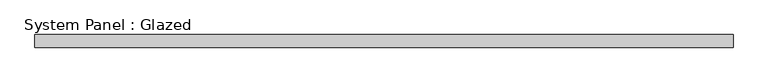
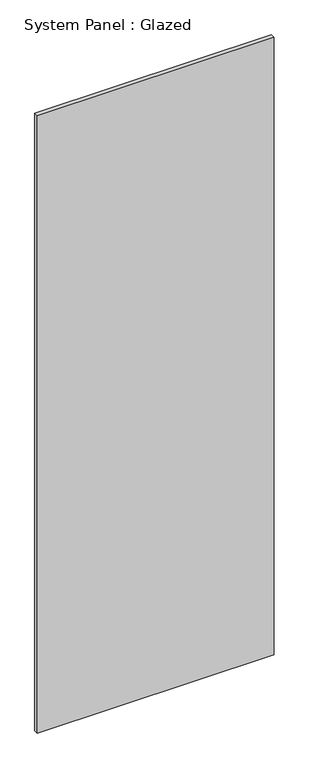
"""IFC4 building model written with IfcOpenShell, lengths in millimetres: plate geometry, System Panel : Glazed."""

from ifc_helpers import new_model, si_unit, origin, origin_with_axes, place, context, project, spatial, polyline, outline, extrude, source, transform, mapped, element, save


def system_panel_glazed_77cafc2b(model_context):
    return source(origin(), model_context, "Body", "SweptSolid", [
        extrude(outline(polyline([(676.1589134, -49.5), (-676.1589134, -49.5), (-676.1589134, -24.5), (676.1589134, -24.5), (676.1589134, -49.5)])), origin_with_axes(), (0.0, 0.0, 1.0), 3725.0),
    ])


if __name__ == "__main__":
    model = new_model("IFC4")
    model_context = context("Model", 3, world=origin())
    ifc_project = project(units=[si_unit("LENGTHUNIT", "METRE", prefix="MILLI")], contexts=[model_context])
    site = spatial("IfcSite", under=ifc_project)
    building = spatial("IfcBuilding", under=site)
    placement = place(None, origin())
    system_panel_glazed_shape = system_panel_glazed_77cafc2b(model_context)
    element("IfcPlate", 1, ObjectType="System Panel : Glazed", at=placement, inside=building, context=model_context, shape_type="MappedRepresentation", body=[
        mapped(system_panel_glazed_shape, transform((0.0, 0.0, 0.0), x_axis=(1.0, 0.0, 0.0), y_axis=(0.0, 1.0, 0.0), z_axis=(0.0, 0.0, 1.0))),
    ])
    save(model, "model.ifc")
